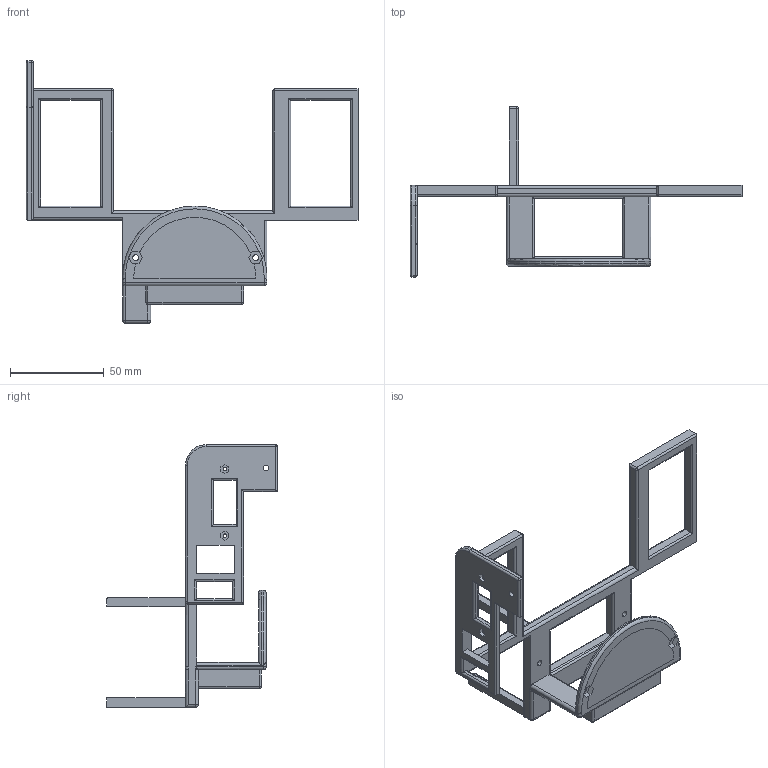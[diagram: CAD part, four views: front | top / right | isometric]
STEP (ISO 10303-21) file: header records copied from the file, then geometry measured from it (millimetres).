
FILE_DESCRIPTION(('Open CASCADE Model'),'2;1');
FILE_NAME('upper-gripper-frame.step','2026-11-14T14:31:48',('Author'),( 'Open CASCADE'),'Open CASCADE STEP processor 8.0','Open CASCADE 8.0' ,'Unknown');
FILE_SCHEMA(('AP242_MANAGED_MODEL_BASED_3D_ENGINEERING_MIM_LF {1 0 10303 442 1 1 4 }' ));
Length unit declared in the file: millimetre
Products named in the file (1): Upper Gripper Frame
Bounding box: 177.01 x 91 x 140 mm (x, y, z)
Volume: 56755.5 mm3; surface area: 34292.4 mm2
Topology: 1 solids, 1 shells, 256 faces, 650 edges, 380 vertices
Faces by surface type: cylinder 136, plane 98, sphere 14, torus 6, bspline 1, revolution 1
Entity records: 20233 total; most frequent: CARTESIAN_POINT 7774, DIRECTION 2253, LINE 1417, VECTOR 1417, ORIENTED_EDGE 1270, PCURVE 1270, DEFINITIONAL_REPRESENTATION 1270, EDGE_CURVE 635
